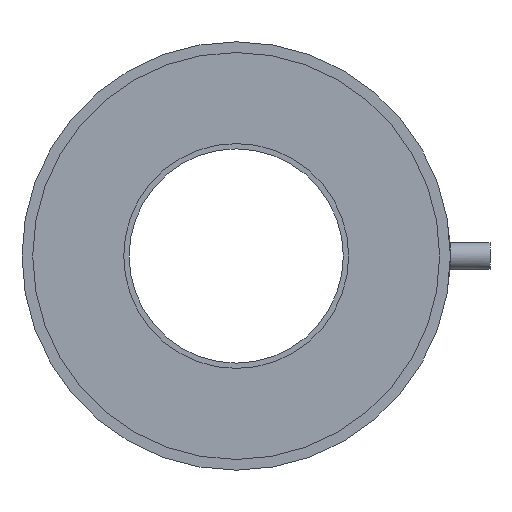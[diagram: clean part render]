
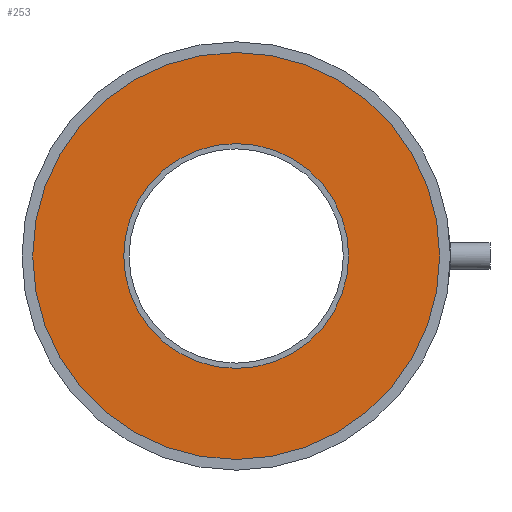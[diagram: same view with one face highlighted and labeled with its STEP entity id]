
A CAD part, front view. The second image highlights one B-rep face of the part: STEP entity #253.
In plain terms, the highlighted planar face has unit normal (0, -1, 0).
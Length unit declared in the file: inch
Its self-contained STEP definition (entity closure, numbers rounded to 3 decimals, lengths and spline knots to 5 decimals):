
#4 = EDGE_CURVE ( 'NONE', #360, #357, #310, .T. ) ;
#6 = EDGE_CURVE ( 'NONE', #357, #360, #309, .T. ) ;
#8 = EDGE_CURVE ( 'NONE', #338, #330, #299, .T. ) ;
#28 = EDGE_CURVE ( 'NONE', #330, #338, #297, .T. ) ;
#32 = AXIS2_PLACEMENT_3D ( 'NONE', #336, #334, #352 ) ;
#65 = AXIS2_PLACEMENT_3D ( 'NONE', #530, #556, #573 ) ;
#74 = AXIS2_PLACEMENT_3D ( 'NONE', #437, #427, #421 ) ;
#84 = AXIS2_PLACEMENT_3D ( 'NONE', #339, #340, #342 ) ;
#91 = AXIS2_PLACEMENT_3D ( 'NONE', #400, #371, #407 ) ;
#101 = FACE_BOUND ( 'NONE', #163, .T. ) ;
#138 = FACE_OUTER_BOUND ( 'NONE', #166, .T. ) ;
#163 = EDGE_LOOP ( 'NONE', ( #220, #194 ) ) ;
#166 = EDGE_LOOP ( 'NONE', ( #187, #195 ) ) ;
#187 = ORIENTED_EDGE ( 'NONE', *, *, #28, .T. ) ;
#194 = ORIENTED_EDGE ( 'NONE', *, *, #4, .F. ) ;
#195 = ORIENTED_EDGE ( 'NONE', *, *, #8, .T. ) ;
#220 = ORIENTED_EDGE ( 'NONE', *, *, #6, .F. ) ;
#253 = ADVANCED_FACE ( 'NONE', ( #138, #101 ), #567, .T. ) ;
#297 = CIRCLE ( 'NONE', #74, 0.95 ) ;
#299 = CIRCLE ( 'NONE', #91, 0.95 ) ;
#309 = CIRCLE ( 'NONE', #84, 0.525 ) ;
#310 = CIRCLE ( 'NONE', #32, 0.525 ) ;
#330 = VERTEX_POINT ( 'NONE', #592 ) ;
#334 = DIRECTION ( 'NONE',  ( 0., -1., 0. ) ) ;
#336 = CARTESIAN_POINT ( 'NONE',  ( 0., -0.344, 0. ) ) ;
#338 = VERTEX_POINT ( 'NONE', #599 ) ;
#339 = CARTESIAN_POINT ( 'NONE',  ( 0., -0.344, 0. ) ) ;
#340 = DIRECTION ( 'NONE',  ( 0., -1., 0. ) ) ;
#342 = DIRECTION ( 'NONE',  ( 0., 0., -1. ) ) ;
#352 = DIRECTION ( 'NONE',  ( 0., 0., -1. ) ) ;
#357 = VERTEX_POINT ( 'NONE', #584 ) ;
#360 = VERTEX_POINT ( 'NONE', #617 ) ;
#371 = DIRECTION ( 'NONE',  ( 0., -1., 0. ) ) ;
#400 = CARTESIAN_POINT ( 'NONE',  ( 0., -0.344, 0. ) ) ;
#407 = DIRECTION ( 'NONE',  ( 0., 0., -1. ) ) ;
#421 = DIRECTION ( 'NONE',  ( 0., 0., -1. ) ) ;
#427 = DIRECTION ( 'NONE',  ( 0., -1., 0. ) ) ;
#437 = CARTESIAN_POINT ( 'NONE',  ( 0., -0.344, 0. ) ) ;
#530 = CARTESIAN_POINT ( 'NONE',  ( 0., -0.344, 0. ) ) ;
#556 = DIRECTION ( 'NONE',  ( 0., -1., 0. ) ) ;
#567 = PLANE ( 'NONE',  #65 ) ;
#573 = DIRECTION ( 'NONE',  ( 0., 0., -1. ) ) ;
#584 = CARTESIAN_POINT ( 'NONE',  ( 0., -0.344, -0.525 ) ) ;
#592 = CARTESIAN_POINT ( 'NONE',  ( 0., -0.344, -0.95 ) ) ;
#599 = CARTESIAN_POINT ( 'NONE',  ( 0., -0.344, 0.95 ) ) ;
#617 = CARTESIAN_POINT ( 'NONE',  ( 0., -0.344, 0.525 ) ) ;
